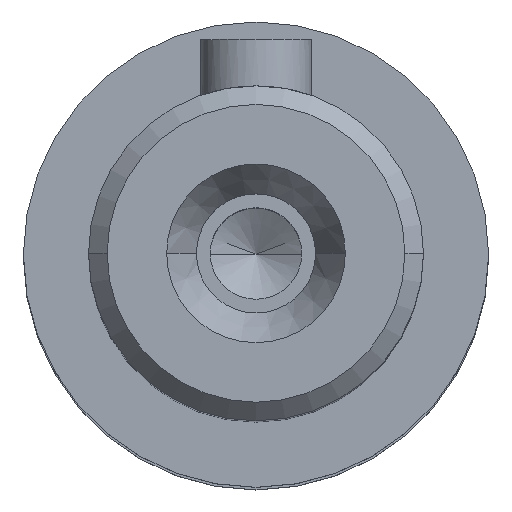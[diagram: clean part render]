
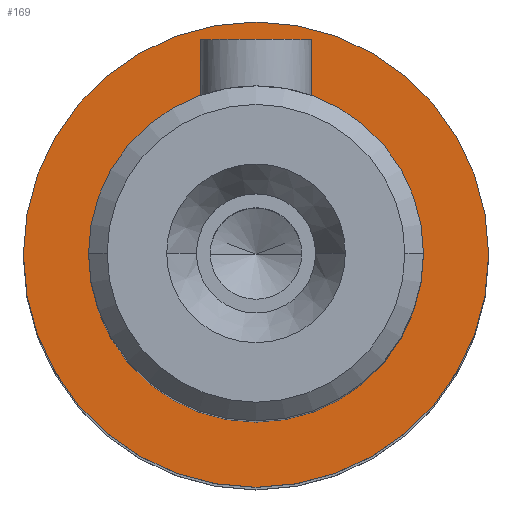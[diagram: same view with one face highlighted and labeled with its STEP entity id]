
A CAD part, top view. The second image highlights one B-rep face of the part: STEP entity #169.
In plain terms, the highlighted planar face has unit normal (0, 0, 1).
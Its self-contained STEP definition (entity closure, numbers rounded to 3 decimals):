
#42 = ORIENTED_EDGE ( 'NONE', *, *, #58, .T. ) ;
#58 = EDGE_CURVE ( 'NONE', #137, #138, #539, .T. ) ;
#89 = VERTEX_POINT ( 'NONE', #808 ) ;
#90 = EDGE_CURVE ( 'NONE', #91, #89, #799, .T. ) ;
#91 = VERTEX_POINT ( 'NONE', #809 ) ;
#116 = ORIENTED_EDGE ( 'NONE', *, *, #322, .T. ) ;
#137 = VERTEX_POINT ( 'NONE', #661 ) ;
#138 = VERTEX_POINT ( 'NONE', #749 ) ;
#169 = ADVANCED_FACE ( 'NONE', ( #850, #917 ), #919, .T. ) ;
#268 = EDGE_LOOP ( 'NONE', ( #116, #42 ) ) ;
#271 = EDGE_LOOP ( 'NONE', ( #293, #292 ) ) ;
#291 = EDGE_CURVE ( 'NONE', #89, #91, #1451, .T. ) ;
#292 = ORIENTED_EDGE ( 'NONE', *, *, #90, .F. ) ;
#293 = ORIENTED_EDGE ( 'NONE', *, *, #291, .F. ) ;
#322 = EDGE_CURVE ( 'NONE', #138, #137, #1419, .T. ) ;
#527 = DIRECTION ( 'NONE',  ( 0., 0., -1. ) ) ;
#528 = CARTESIAN_POINT ( 'NONE',  ( 0., 0., 42. ) ) ;
#539 = CIRCLE ( 'NONE', #553, 9. ) ;
#553 = AXIS2_PLACEMENT_3D ( 'NONE', #528, #527, #577 ) ;
#577 = DIRECTION ( 'NONE',  ( 1., 0., 0. ) ) ;
#661 = CARTESIAN_POINT ( 'NONE',  ( -9., 0., 42. ) ) ;
#749 = CARTESIAN_POINT ( 'NONE',  ( 9., 0., 42. ) ) ;
#795 = DIRECTION ( 'NONE',  ( 1., 0., 0. ) ) ;
#796 = DIRECTION ( 'NONE',  ( 0., 0., -1. ) ) ;
#797 = CARTESIAN_POINT ( 'NONE',  ( 0., 0., 42. ) ) ;
#798 = AXIS2_PLACEMENT_3D ( 'NONE', #797, #796, #795 ) ;
#799 = CIRCLE ( 'NONE', #798, 12.5 ) ;
#808 = CARTESIAN_POINT ( 'NONE',  ( 12.5, 0., 42. ) ) ;
#809 = CARTESIAN_POINT ( 'NONE',  ( -12.5, 0., 42. ) ) ;
#839 = DIRECTION ( 'NONE',  ( 1., 0., 0. ) ) ;
#840 = DIRECTION ( 'NONE',  ( 0., 0., 1. ) ) ;
#841 = CARTESIAN_POINT ( 'NONE',  ( 0., 10.75, 42. ) ) ;
#850 = FACE_BOUND ( 'NONE', #268, .T. ) ;
#917 = FACE_OUTER_BOUND ( 'NONE', #271, .T. ) ;
#919 = PLANE ( 'NONE',  #952 ) ;
#952 = AXIS2_PLACEMENT_3D ( 'NONE', #841, #840, #839 ) ;
#1355 = CARTESIAN_POINT ( 'NONE',  ( 0., 0., 42. ) ) ;
#1416 = DIRECTION ( 'NONE',  ( 1., 0., 0. ) ) ;
#1417 = DIRECTION ( 'NONE',  ( 0., 0., -1. ) ) ;
#1419 = CIRCLE ( 'NONE', #1424, 9. ) ;
#1424 = AXIS2_PLACEMENT_3D ( 'NONE', #1355, #1417, #1416 ) ;
#1447 = DIRECTION ( 'NONE',  ( 1., 0., 0. ) ) ;
#1448 = DIRECTION ( 'NONE',  ( 0., 0., -1. ) ) ;
#1449 = CARTESIAN_POINT ( 'NONE',  ( 0., 0., 42. ) ) ;
#1450 = AXIS2_PLACEMENT_3D ( 'NONE', #1449, #1448, #1447 ) ;
#1451 = CIRCLE ( 'NONE', #1450, 12.5 ) ;
